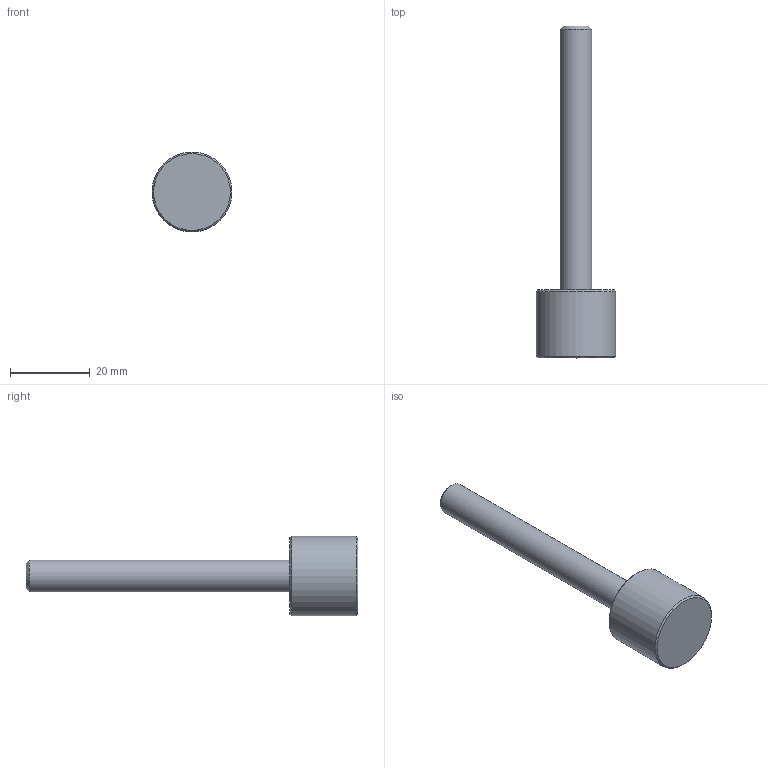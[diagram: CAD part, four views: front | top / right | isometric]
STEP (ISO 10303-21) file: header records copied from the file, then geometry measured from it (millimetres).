
FILE_DESCRIPTION(/* description */ (''),/* implementation_level */ '2;1');
FILE_NAME(/* name */ '/Users/eric/Desktop/Abco 1234.stp',/* time_stamp */ '2014-08-27T18:46:38+02:00',/* author */ (''),/* organization */ (''),/* preprocessor_version */ 'ST-DEVELOPER v14.6',/* originating_system */ '',/* authorisation */ '');
FILE_SCHEMA (('AUTOMOTIVE_DESIGN { 1 2 10303 214 1 1 1 1 }'));
Length unit declared in the file: centimetre
Products named in the file (1): 1234-K789
Bounding box: 20 x 83 x 20 mm (x, y, z)
Volume: 8641.4 mm3; surface area: 4457.2 mm2
Topology: 2 solids, 2 shells, 45 faces, 90 edges, 54 vertices
Faces by surface type: plane 21, cone 17, cylinder 7
Full cylindrical faces by diameter (mm): 7.323 x2, 8 x2, 11.4 x2, 20 x1
Entity records: 1065 total; most frequent: CARTESIAN_POINT 224, DIRECTION 174, ORIENTED_EDGE 154, EDGE_CURVE 77, AXIS2_PLACEMENT_3D 75, EDGE_LOOP 62, VERTEX_POINT 53, ADVANCED_FACE 45
